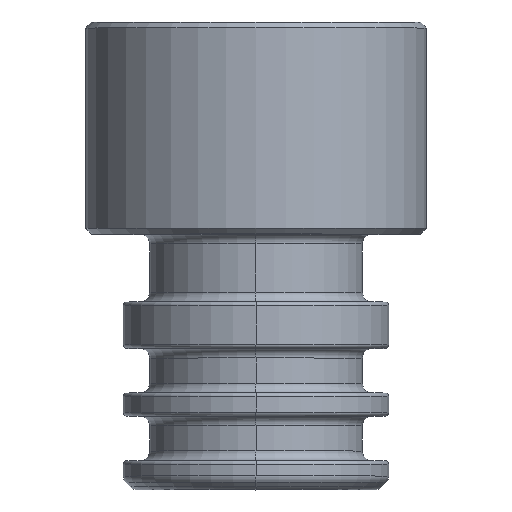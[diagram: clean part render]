
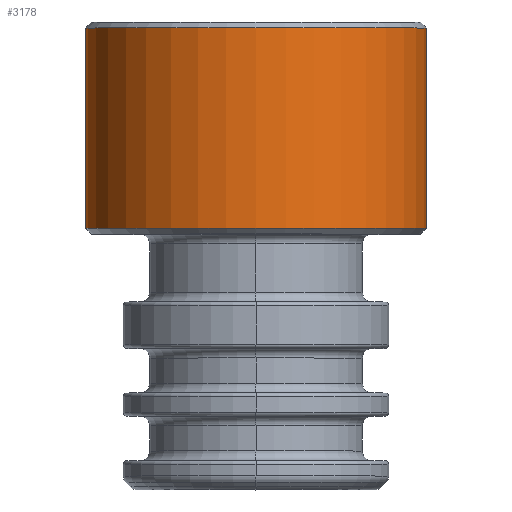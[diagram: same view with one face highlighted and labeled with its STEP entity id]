
A CAD part, top view. The second image highlights one B-rep face of the part: STEP entity #3178.
In plain terms, the highlighted cylindrical face has radius 8.8 mm (diameter 17.6 mm), a partial arc.
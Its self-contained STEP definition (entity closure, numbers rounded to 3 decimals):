
#481=DIRECTION('',(0.,1.,0.));
#482=VECTOR('',#481,10.35);
#483=CARTESIAN_POINT('',(8.8,-4.15,8.8));
#484=LINE('',#483,#482);
#1122=DIRECTION('',(0.,1.,0.));
#1123=VECTOR('',#1122,10.35);
#1124=CARTESIAN_POINT('',(-8.8,-4.15,
8.8));
#1125=LINE('',#1124,#1123);
#1134=CARTESIAN_POINT('',(0.,6.2,8.8));
#1135=DIRECTION('',(0.,1.,0.));
#1136=DIRECTION('',(-1.,0.,0.));
#1137=AXIS2_PLACEMENT_3D('',#1134,#1135,#1136);
#1139=CARTESIAN_POINT('',(0.,-4.15,8.8));
#1140=DIRECTION('',(0.,1.,0.));
#1141=DIRECTION('',(-1.,0.,0.));
#1142=AXIS2_PLACEMENT_3D('',#1139,#1140,#1141);
#1500=CARTESIAN_POINT('',(-8.8,6.2,8.8));
#1501=VERTEX_POINT('',#1500);
#1504=CARTESIAN_POINT('',(8.8,6.2,8.8));
#1505=VERTEX_POINT('',#1504);
#1526=CARTESIAN_POINT('',(-8.8,-4.15,
8.8));
#1527=VERTEX_POINT('',#1526);
#1530=CARTESIAN_POINT('',(8.8,-4.15,8.8));
#1531=VERTEX_POINT('',#1530);
#3166=CARTESIAN_POINT('',(0.,-49.132,8.8));
#3167=DIRECTION('',(0.,1.,0.));
#3168=DIRECTION('',(-1.,0.,0.));
#3169=AXIS2_PLACEMENT_3D('',#3166,#3167,#3168);
#3170=CYLINDRICAL_SURFACE('',#3169,8.8);
#3171=ORIENTED_EDGE('',*,*,#2317,.T.);
#3172=ORIENTED_EDGE('',*,*,#2345,.F.);
#3174=ORIENTED_EDGE('',*,*,#3173,.F.);
#3175=ORIENTED_EDGE('',*,*,#3159,.T.);
#3176=EDGE_LOOP('',(#3171,#3172,#3174,#3175));
#3177=FACE_OUTER_BOUND('',#3176,.F.);
#3178=ADVANCED_FACE('',(#3177),#3170,.T.);
#1138=CIRCLE('',#1137,8.8);
#1143=CIRCLE('',#1142,8.8);
#2317=EDGE_CURVE('',#1501,#1505,#1138,.T.);
#2345=EDGE_CURVE('',#1531,#1505,#484,.T.);
#3159=EDGE_CURVE('',#1527,#1501,#1125,.T.);
#3173=EDGE_CURVE('',#1527,#1531,#1143,.T.);
